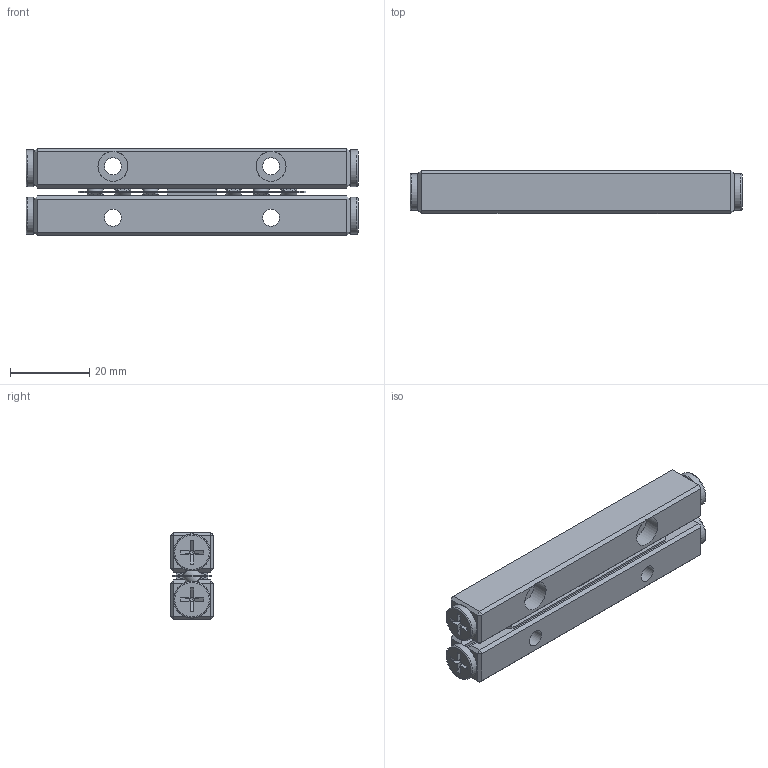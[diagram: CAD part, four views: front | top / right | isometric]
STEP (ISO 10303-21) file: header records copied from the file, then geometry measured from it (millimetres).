
FILE_DESCRIPTION (( 'STEP AP203' ), '1' );
FILE_NAME ('GRG04-0080-模糊化軌道組.STEP', '2022-10-07T08:45:08', ( '' ), ( '' ), 'SwSTEP 2.0', 'SolidWorks 2019', '' );
FILE_SCHEMA (( 'CONFIG_CONTROL_DESIGN' ));
Length unit declared in the file: millimetre
Products named in the file (1): GRG04-0080-模糊化軌道組
Bounding box: 84 x 11 x 22 mm (x, y, z)
Volume: 16567.7 mm3; surface area: 9942.9 mm2
Topology: 3 solids, 7 shells, 346 faces, 822 edges, 502 vertices
Faces by surface type: plane 256, cone 40, cylinder 30, torus 20
Full cylindrical faces by diameter (mm): 3.35 x4, 4.3 x4, 7.6 x4, 9.3 x4
Entity records: 9593 total; most frequent: CARTESIAN_POINT 1979, ORIENTED_EDGE 1536, DIRECTION 1518, EDGE_CURVE 768, LINE 536, VECTOR 536, AXIS2_PLACEMENT_3D 491, VERTEX_POINT 480
